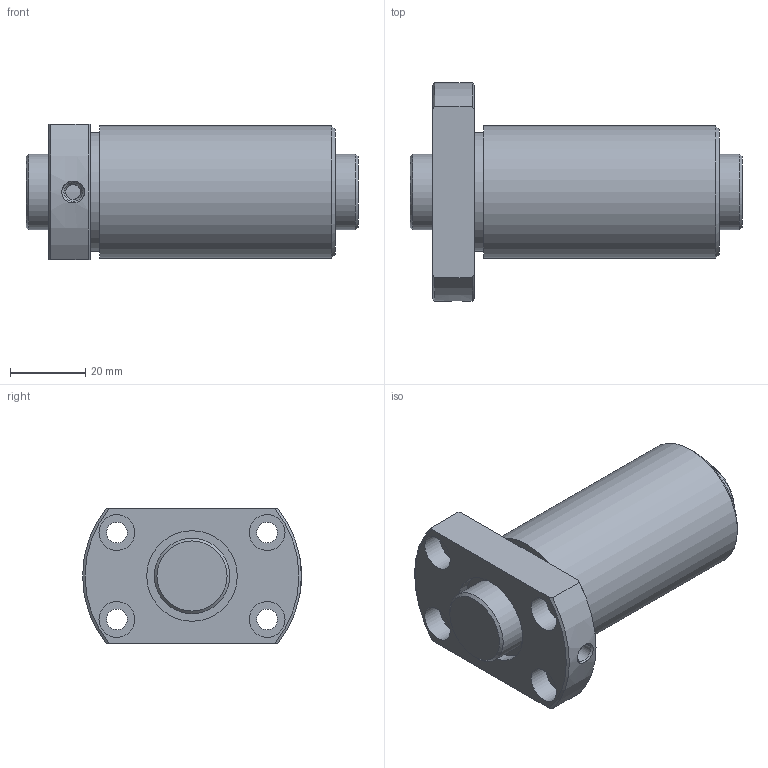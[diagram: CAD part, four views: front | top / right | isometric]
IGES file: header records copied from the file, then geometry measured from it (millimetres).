
Start section: Data from Parasolid IGES Translator 26.0.171, Copyright(c) 2006 Siemens PLM Software. All Rights Reserved.
Global section: file name: DIK2006-6RRG0+88LC0_000.igs; native system: By Siemens PLM Incorporated; preprocessor: XPlus GENERIC/IGES 26.0.171; author: Noname; organization: Noname; date: 20250113.094701; units: millimetre
Bounding box: 88 x 58 x 36 mm (x, y, z)
Surface area: 24502.9 mm2 (no closed solid volume)
Topology: 0 solids, 0 shells, 41 faces, 166 edges, 132 vertices
Faces by surface type: revolution 27, extrusion 14
